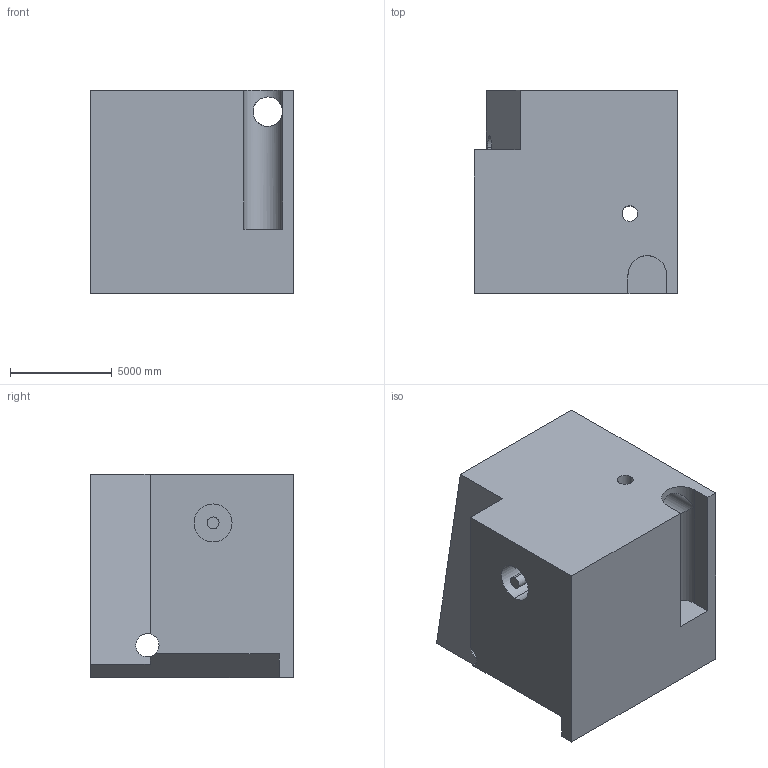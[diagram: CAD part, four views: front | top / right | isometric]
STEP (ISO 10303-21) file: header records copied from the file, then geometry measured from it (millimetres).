
FILE_DESCRIPTION (( 'STEP AP203' ), '1' );
FILE_NAME ('177.STEP', '2022-09-05T15:57:52', ( 'user' ), ( '' ), 'SwSTEP 2.0', 'SolidWorks 2021', '' );
FILE_SCHEMA (( 'CONFIG_CONTROL_DESIGN' ));
Length unit declared in the file: centimetre
Products named in the file (1): 177
Bounding box: 10000 x 10000 x 10000 mm (x, y, z)
Volume: 892810861756.6 mm3; surface area: 727102602.8 mm2
Topology: 1 solids, 1 shells, 30 faces, 84 edges, 56 vertices
Faces by surface type: plane 19, cylinder 11
Entity records: 1573 total; most frequent: CARTESIAN_POINT 704, ORIENTED_EDGE 168, DIRECTION 157, EDGE_CURVE 84, VECTOR 57, LINE 57, VERTEX_POINT 56, AXIS2_PLACEMENT_3D 50
